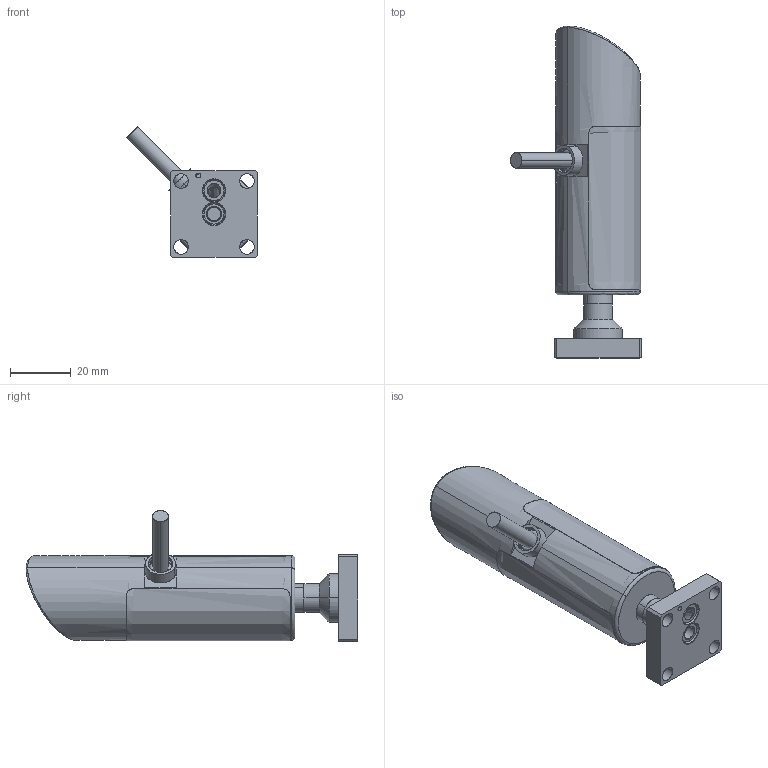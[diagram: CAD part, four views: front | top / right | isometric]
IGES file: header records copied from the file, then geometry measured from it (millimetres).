
Start section: SolidWorks IGES file using analytic representation for surfaces
Global section: file name: R:\Brooks Instrument\25-0024 SSII CAD File Generation\Client Files\SSII CAD Models for Website\CAD for Brooks Website\Example\GRD\GRD-XXXXXX-P-XXX-CS\IGES\GRD-XXXXXX-P-XXX-CS.IGS; native system: SolidWorks 2023; preprocessor: SolidWorks 2023; author: dgoddard; date: 250625.105414; units: inch
Bounding box: 43.07 x 109.32 x 43.07 mm (x, y, z)
Surface area: 14325.3 mm2 (no closed solid volume)
Topology: 0 solids, 0 shells, 1141 faces, 9434 edges, 9428 vertices
Faces by surface type: bspline 1031, revolution 110
